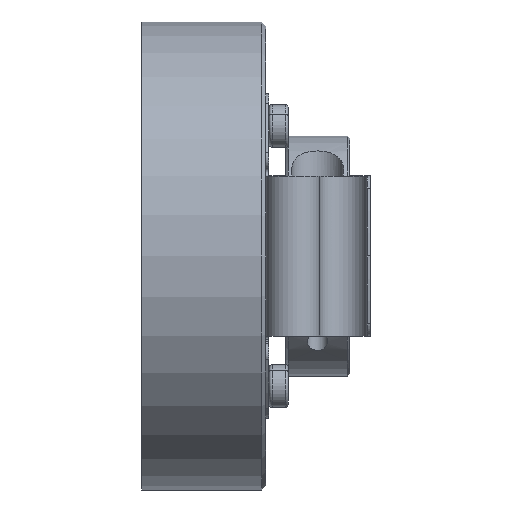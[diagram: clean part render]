
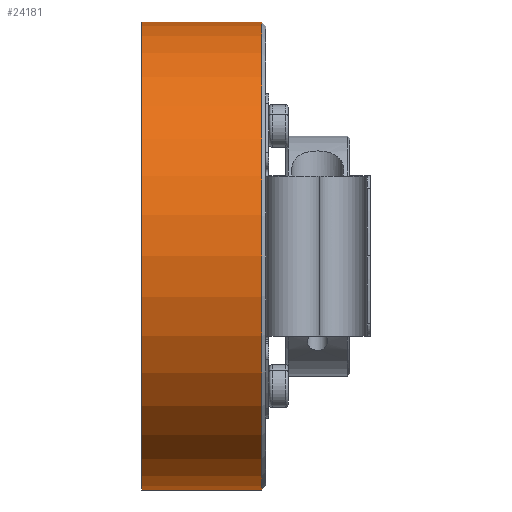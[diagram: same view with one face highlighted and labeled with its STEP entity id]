
A CAD part, left-side view. The second image highlights one B-rep face of the part: STEP entity #24181.
In plain terms, the highlighted cylindrical face has radius 29.25 mm (diameter 58.5 mm), a partial arc.
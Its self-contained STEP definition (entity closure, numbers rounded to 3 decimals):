
#1195 = DIRECTION ( 'NONE',  ( 0., 1., 0. ) ) ;
#3075 = VERTEX_POINT ( 'NONE', #3547 ) ;
#3256 = VERTEX_POINT ( 'NONE', #13149 ) ;
#3547 = CARTESIAN_POINT ( 'NONE',  ( 0., 15.5, -29.25 ) ) ;
#3576 = DIRECTION ( 'NONE',  ( 0., 1., 0. ) ) ;
#3703 = CARTESIAN_POINT ( 'NONE',  ( 0., 15.5, 0. ) ) ;
#5771 = EDGE_CURVE ( 'NONE', #3256, #12518, #18317, .T. ) ;
#6248 = EDGE_CURVE ( 'NONE', #20542, #3256, #25965, .T. ) ;
#6388 = DIRECTION ( 'NONE',  ( 0., 0., 1. ) ) ;
#6675 = DIRECTION ( 'NONE',  ( 0., 1., 0. ) ) ;
#8396 = FACE_OUTER_BOUND ( 'NONE', #14276, .T. ) ;
#9078 = CARTESIAN_POINT ( 'NONE',  ( 0., 0.5, -29.25 ) ) ;
#11410 = DIRECTION ( 'NONE',  ( 0., 0., 1. ) ) ;
#11663 = EDGE_CURVE ( 'NONE', #3075, #12518, #17617, .T. ) ;
#12518 = VERTEX_POINT ( 'NONE', #19730 ) ;
#13149 = CARTESIAN_POINT ( 'NONE',  ( 0., 0.5, 29.25 ) ) ;
#14276 = EDGE_LOOP ( 'NONE', ( #26568, #25899, #35827, #35841 ) ) ;
#16079 = EDGE_CURVE ( 'NONE', #20542, #3075, #29430, .T. ) ;
#16250 = CARTESIAN_POINT ( 'NONE',  ( 0., 32.8, -29.25 ) ) ;
#16620 = DIRECTION ( 'NONE',  ( 0., 1., 0. ) ) ;
#17617 = CIRCLE ( 'NONE', #18669, 29.25 ) ;
#18317 = LINE ( 'NONE', #28021, #31371 ) ;
#18669 = AXIS2_PLACEMENT_3D ( 'NONE', #3703, #3576, #6388 ) ;
#19730 = CARTESIAN_POINT ( 'NONE',  ( 0., 15.5, 29.25 ) ) ;
#20320 = VECTOR ( 'NONE', #16620, 1000. ) ;
#20542 = VERTEX_POINT ( 'NONE', #9078 ) ;
#20615 = DIRECTION ( 'NONE',  ( 0., 0., -1. ) ) ;
#23285 = CARTESIAN_POINT ( 'NONE',  ( 0., 32.8, 0. ) ) ;
#24181 = ADVANCED_FACE ( 'NONE', ( #8396 ), #35721, .T. ) ;
#25899 = ORIENTED_EDGE ( 'NONE', *, *, #6248, .T. ) ;
#25965 = CIRCLE ( 'NONE', #29865, 29.25 ) ;
#26568 = ORIENTED_EDGE ( 'NONE', *, *, #16079, .F. ) ;
#28021 = CARTESIAN_POINT ( 'NONE',  ( 0., 32.8, 29.25 ) ) ;
#28972 = CARTESIAN_POINT ( 'NONE',  ( 0., 0.5, 0. ) ) ;
#29430 = LINE ( 'NONE', #16250, #20320 ) ;
#29865 = AXIS2_PLACEMENT_3D ( 'NONE', #28972, #1195, #20615 ) ;
#30835 = DIRECTION ( 'NONE',  ( 0., 1., 0. ) ) ;
#31371 = VECTOR ( 'NONE', #30835, 1000. ) ;
#32669 = AXIS2_PLACEMENT_3D ( 'NONE', #23285, #6675, #11410 ) ;
#35721 = CYLINDRICAL_SURFACE ( 'NONE', #32669, 29.25 ) ;
#35827 = ORIENTED_EDGE ( 'NONE', *, *, #5771, .T. ) ;
#35841 = ORIENTED_EDGE ( 'NONE', *, *, #11663, .F. ) ;
